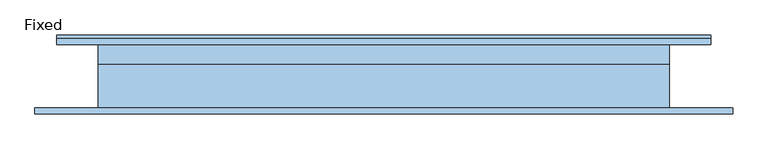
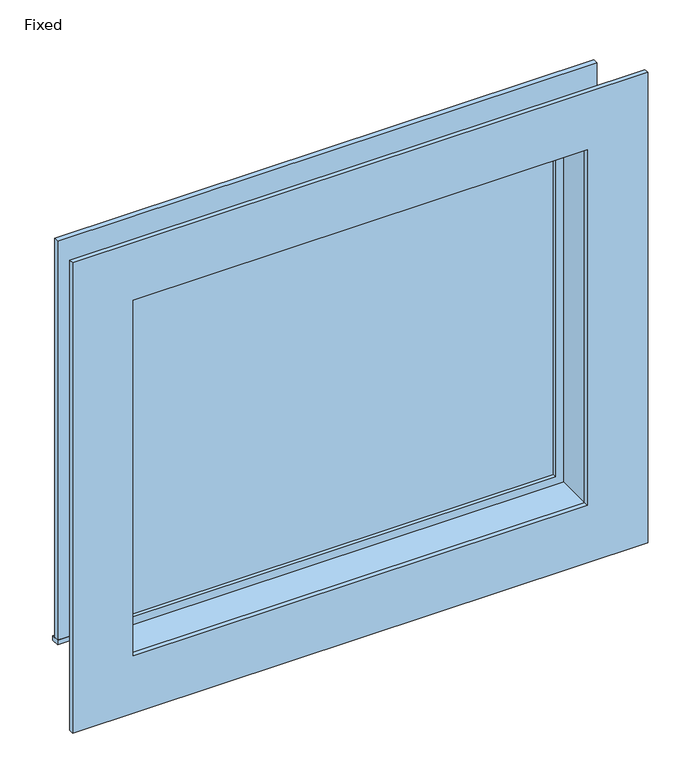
"""IFC4 building model written with IfcOpenShell, lengths in millimetres: window geometry."""

from ifc_helpers import new_model, si_unit, frame, origin, place, context, project, spatial, polyline, outline, extrude, source, transform, mapped, element, save


def fixed_fbb7a90c(model_context):
    return source(origin(), model_context, "Body", "SweptSolid", [
        extrude(outline(polyline([(-1085.85, 133.35), (1009.65, 133.35), (1009.65, 101.6), (-1085.85, 101.6), (-1085.85, 133.35)])), frame((0.0, 0.0, 914.4), z_axis=(0.0, 0.0, 1.0), x_axis=(1.0, 0.0, 0.0)), (0.0, 0.0, 1.0), 19.05),
        extrude(outline(polyline([(2419.35, -933.45), (2419.35, 857.25), (933.45, 857.25), (933.45, 1009.65), (2571.75, 1009.65), (2571.75, -1085.85), (933.45, -1085.85), (933.45, -933.45), (2419.35, -933.45)])), frame((0.0, 101.6, 0.0), z_axis=(0.0, 1.0, 0.0), x_axis=(0.0, 0.0, 1.0)), (0.0, 0.0, 1.0), 19.05),
        extrude(outline(polyline([(2641.6, 1079.5), (2641.6, -1155.7), (711.2, -1155.7), (711.2, 1079.5), (2641.6, 1079.5)]), holes=[polyline([(2406.65, 844.55), (946.15, 844.55), (946.15, -920.75), (2406.65, -920.75), (2406.65, 844.55)])]), frame((0.0, -120.65, 0.0), z_axis=(0.0, 1.0, 0.0), x_axis=(0.0, 0.0, 1.0)), (0.0, 0.0, 1.0), 19.05),
        extrude(outline(polyline([(812.8, 53.975), (-889.0, 53.975), (-889.0, 66.675), (812.8, 66.675), (812.8, 53.975)])), frame((0.0, 0.0, 977.9), z_axis=(0.0, 0.0, 1.0), x_axis=(1.0, 0.0, 0.0)), (0.0, 0.0, 1.0), 1397.0),
        extrude(outline(polyline([(2419.35, -933.45), (933.45, -933.45), (933.45, 857.25), (2419.35, 857.25), (2419.35, -933.45)]), holes=[polyline([(2374.9, -889.0), (2374.9, 812.8), (977.9, 812.8), (977.9, -889.0), (2374.9, -889.0)])]), frame((0.0, 38.1, 0.0), z_axis=(0.0, 1.0, 0.0), x_axis=(0.0, 0.0, 1.0)), (0.0, 0.0, 1.0), 44.45),
        extrude(outline(polyline([(2438.4, -952.5), (914.4, -952.5), (914.4, 876.3), (2438.4, 876.3), (2438.4, -952.5)]), holes=[polyline([(2406.65, -920.75), (2406.65, 844.55), (946.15, 844.55), (946.15, -920.75), (2406.65, -920.75)])]), frame((0.0, -101.6, 0.0), z_axis=(0.0, 1.0, 0.0), x_axis=(0.0, 0.0, 1.0)), (0.0, 0.0, 1.0), 139.7),
        extrude(outline(polyline([(2438.4, 876.3), (2438.4, -952.5), (914.4, -952.5), (914.4, 876.3), (2438.4, 876.3)]), holes=[polyline([(2419.35, 857.25), (933.45, 857.25), (933.45, -933.45), (2419.35, -933.45), (2419.35, 857.25)])]), frame((0.0, 38.1, 0.0), z_axis=(0.0, 1.0, 0.0), x_axis=(0.0, 0.0, 1.0)), (0.0, 0.0, 1.0), 63.5),
    ])


if __name__ == "__main__":
    model = new_model("IFC4")
    model_context = context("Model", 3, world=origin())
    ifc_project = project(units=[si_unit("LENGTHUNIT", "METRE", prefix="MILLI")], contexts=[model_context])
    site = spatial("IfcSite", under=ifc_project)
    building = spatial("IfcBuilding", under=site)
    placement = place(None, origin())
    fixed_shape = fixed_fbb7a90c(model_context)
    element("IfcWindow", 1, ObjectType="Fixed : 72\"w x 60\"h", at=placement, inside=building, context=model_context, shape_type="MappedRepresentation", body=[
        mapped(fixed_shape, transform((0.0, 0.0, 0.0), x_axis=(1.0, 0.0, 0.0), y_axis=(0.0, 1.0, 0.0), z_axis=(0.0, 0.0, 1.0))),
    ])
    save(model, "model.ifc")
